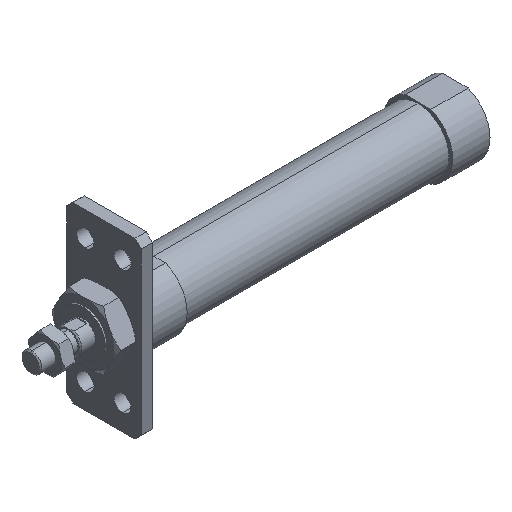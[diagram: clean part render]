
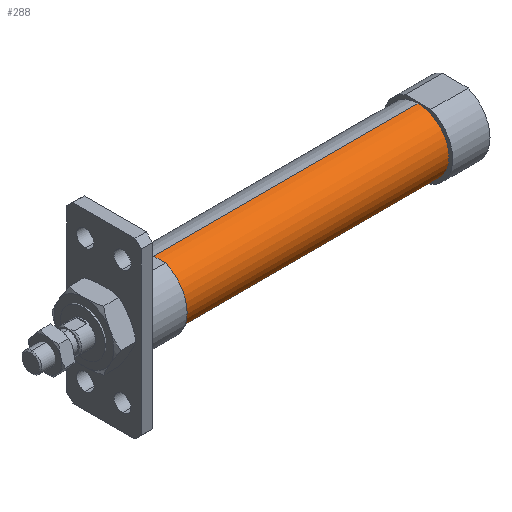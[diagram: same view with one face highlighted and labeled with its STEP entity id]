
A CAD part, isometric view. The second image highlights one B-rep face of the part: STEP entity #288.
In plain terms, the highlighted cylindrical face has radius 12.5 mm (diameter 25 mm), a partial arc.
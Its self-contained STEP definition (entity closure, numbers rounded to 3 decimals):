
#12 = DIRECTION ( 'NONE',  ( 0., 0., 1. ) ) ;
#45 = EDGE_CURVE ( 'NONE', #780, #1861, #2889, .T. ) ;
#98 = CARTESIAN_POINT ( 'NONE',  ( -6.469, 0., -12.5 ) ) ;
#145 = CARTESIAN_POINT ( 'NONE',  ( -6.469, 0., 0. ) ) ;
#288 = ADVANCED_FACE ( 'NONE', ( #3339 ), #1527, .T. ) ;
#289 = ORIENTED_EDGE ( 'NONE', *, *, #45, .T. ) ;
#342 = AXIS2_PLACEMENT_3D ( 'NONE', #145, #3389, #1048 ) ;
#382 = CARTESIAN_POINT ( 'NONE',  ( -6.469, 0., 12.5 ) ) ;
#413 = VECTOR ( 'NONE', #3301, 1000. ) ;
#457 = CARTESIAN_POINT ( 'NONE',  ( 156., 0., -12.5 ) ) ;
#470 = AXIS2_PLACEMENT_3D ( 'NONE', #3774, #1130, #539 ) ;
#539 = DIRECTION ( 'NONE',  ( 0., 0., 1. ) ) ;
#733 = CIRCLE ( 'NONE', #470, 12.5 ) ;
#780 = VERTEX_POINT ( 'NONE', #457 ) ;
#784 = VECTOR ( 'NONE', #2742, 1000. ) ;
#918 = DIRECTION ( 'NONE',  ( -1., 0., 0. ) ) ;
#944 = VERTEX_POINT ( 'NONE', #2385 ) ;
#1038 = CARTESIAN_POINT ( 'NONE',  ( 156., 0., 12.5 ) ) ;
#1048 = DIRECTION ( 'NONE',  ( 0., 0., 1. ) ) ;
#1130 = DIRECTION ( 'NONE',  ( -1., 0., 0. ) ) ;
#1527 = CYLINDRICAL_SURFACE ( 'NONE', #342, 12.5 ) ;
#1576 = LINE ( 'NONE', #382, #784 ) ;
#1591 = CARTESIAN_POINT ( 'NONE',  ( 156., 0., 0. ) ) ;
#1713 = LINE ( 'NONE', #98, #413 ) ;
#1861 = VERTEX_POINT ( 'NONE', #1038 ) ;
#1917 = ORIENTED_EDGE ( 'NONE', *, *, #2506, .F. ) ;
#2316 = AXIS2_PLACEMENT_3D ( 'NONE', #1591, #918, #12 ) ;
#2385 = CARTESIAN_POINT ( 'NONE',  ( 49., 0., -12.5 ) ) ;
#2462 = EDGE_CURVE ( 'NONE', #1861, #3559, #1576, .T. ) ;
#2506 = EDGE_CURVE ( 'NONE', #780, #944, #1713, .T. ) ;
#2637 = CARTESIAN_POINT ( 'NONE',  ( 49., 0., 12.5 ) ) ;
#2640 = EDGE_LOOP ( 'NONE', ( #1917, #289, #3720, #3700 ) ) ;
#2693 = EDGE_CURVE ( 'NONE', #944, #3559, #733, .T. ) ;
#2742 = DIRECTION ( 'NONE',  ( -1., 0., 0. ) ) ;
#2889 = CIRCLE ( 'NONE', #2316, 12.5 ) ;
#3301 = DIRECTION ( 'NONE',  ( -1., 0., 0. ) ) ;
#3339 = FACE_OUTER_BOUND ( 'NONE', #2640, .T. ) ;
#3389 = DIRECTION ( 'NONE',  ( -1., 0., 0. ) ) ;
#3559 = VERTEX_POINT ( 'NONE', #2637 ) ;
#3700 = ORIENTED_EDGE ( 'NONE', *, *, #2693, .F. ) ;
#3720 = ORIENTED_EDGE ( 'NONE', *, *, #2462, .T. ) ;
#3774 = CARTESIAN_POINT ( 'NONE',  ( 49., 0., 0. ) ) ;
